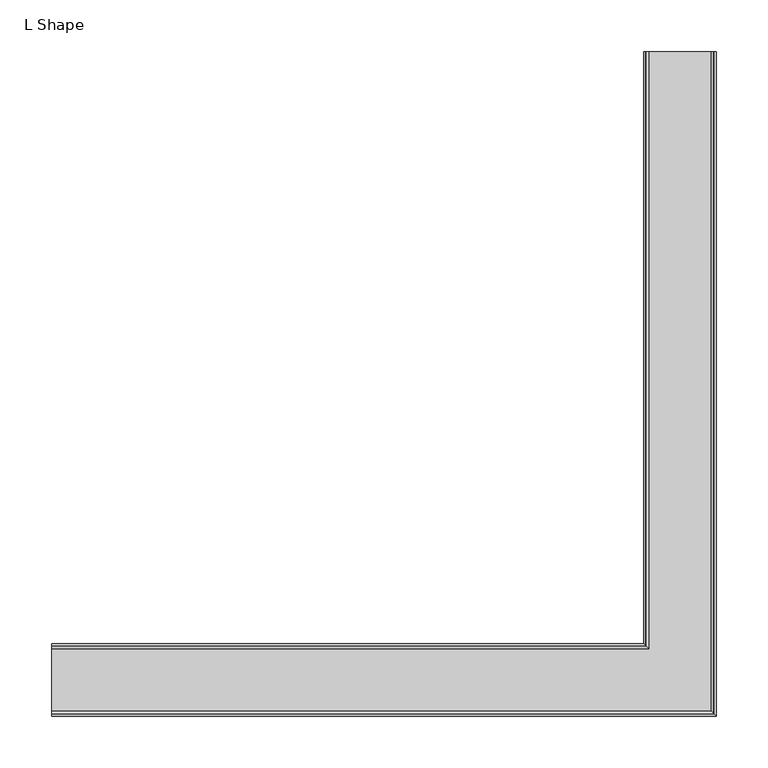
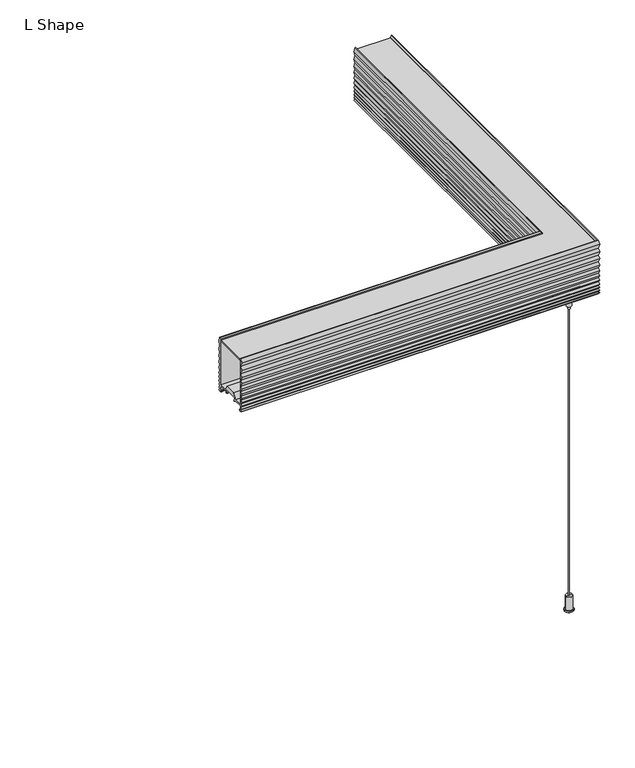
"""IFC4 building model written with IfcOpenShell, lengths in millimetres: light fixture geometry, Lighting-Pendant-Betacalco-Bellows-L_Shape : L Shape."""

from ifc_helpers import new_model, si_unit, point, frame, frame_2d, origin, place, context, project, spatial, polyline, circle_curve, ellipse_curve, trimmed, segment, composite_curve, outline, extrude, source, transform, mapped, element, save
from ifc_brep_helpers import plane_surface, cylinder_surface, advanced_brep


def l_shape_2e4bd5f2(model_context):
    return source(origin(), model_context, "Body", "SolidModel", [
        extrude(outline(polyline([(334.6958, -30.1625), (274.9042, -30.1625), (274.9042, 30.1625), (334.6958, 30.1625), (334.6958, -30.1625)])), frame((0.0, 0.0, 612.648), z_axis=(0.0, 0.0, 1.0), x_axis=(1.0, 0.0, 0.0)), (0.0, 0.0, 1.0), 1.524),
        advanced_brep(
        [(312.8, 0.0, 0.0), (312.8, 0.0, 2.05), (296.8, 0.0, 2.05), (296.8, 0.0, 0.0), (310.8, 0.0, 2.05), (298.8, 0.0, 2.05), (310.8, 0.0, 27.4), (298.8, 0.0, 27.4), (304.8, 0.0, 27.4), (304.8, 0.0, 0.0)],
        [
            (0, 1),
            (1, 2, circle_curve(frame((304.8, 0.0, 2.05), z_axis=(0.0, 0.0, -1.0), x_axis=(-1.0, 0.0, 0.0)), 8.0)),
            (2, 3),
            (3, 0, circle_curve(frame((304.8, 0.0, 0.0), z_axis=(0.0, 0.0, 1.0), x_axis=(-1.0, 0.0, 0.0)), 8.0)),
            (2, 1, circle_curve(frame((304.8, 0.0, 2.05), z_axis=(0.0, 0.0, -1.0), x_axis=(-1.0, 0.0, 0.0)), 8.0)),
            (0, 3, circle_curve(frame((304.8, 0.0, 0.0), z_axis=(0.0, 0.0, 1.0), x_axis=(-1.0, 0.0, 0.0)), 8.0)),
            (1, 4),
            (4, 5, circle_curve(frame((304.8, 0.0, 2.05), z_axis=(0.0, 0.0, -1.0), x_axis=(-1.0, 0.0, 0.0)), 6.0)),
            (5, 2),
            (5, 4, circle_curve(frame((304.8, 0.0, 2.05), z_axis=(0.0, 0.0, -1.0), x_axis=(-1.0, 0.0, 0.0)), 6.0)),
            (4, 6),
            (6, 7, circle_curve(frame((304.8, 0.0, 27.4), z_axis=(0.0, 0.0, -1.0), x_axis=(-1.0, 0.0, 0.0)), 6.0)),
            (7, 5),
            (7, 6, circle_curve(frame((304.8, 0.0, 27.4), z_axis=(0.0, 0.0, -1.0), x_axis=(-1.0, 0.0, 0.0)), 6.0)),
            (6, 8),
            (8, 7),
            (9, 0),
            (3, 9),
        ],
        [
            cylinder_surface(frame((304.8, 0.0, 2366.7150031), z_axis=(0.0, 0.0, -1.0), x_axis=(-1.0, 0.0, 0.0)), 8.0),
            plane_surface(frame((304.8, 0.0, 2.05), z_axis=(0.0, 0.0, 1.0), x_axis=(-1.0, 0.0, 0.0))),
            cylinder_surface(frame((304.8, 0.0, 2366.7150031), z_axis=(0.0, 0.0, -1.0), x_axis=(-1.0, 0.0, 0.0)), 6.0),
            plane_surface(frame((304.8, 0.0, 27.4), z_axis=(0.0, 0.0, 1.0), x_axis=(-1.0, 0.0, 0.0))),
            plane_surface(frame((304.8, 0.0, 0.0), z_axis=(0.0, 0.0, -1.0), x_axis=(-1.0, 0.0, 0.0))),
        ],
        [
            (0, [[1, 2, 3, 4]]),
            (0, [[-3, 5, -1, 6]]),
            (1, [[7, 8, 9, -2]]),
            (1, [[-9, 10, -7, -5]]),
            (2, [[11, 12, 13, -8]]),
            (2, [[-13, 14, -11, -10]]),
            (3, [[15, 16, -12]]),
            (3, [[-16, -15, -14]]),
            (4, [[17, -4, 18]]),
            (4, [[-18, -6, -17]]),
        ],
    ),
        advanced_brep(
        [(305.5937476, 0.0, 27.4), (305.5937476, 0.0, 572.93256), (304.0062524, 0.0, 572.93256), (304.0062524, 0.0, 27.4), (304.8, 0.0, 27.4), (304.8, 0.0, 572.93256)],
        [
            (0, 1),
            (1, 2, circle_curve(frame((304.8, 0.0, 572.93256), z_axis=(0.0, 0.0, -1.0), x_axis=(-1.0, 0.0, 0.0)), 0.7937476)),
            (2, 3),
            (3, 0, circle_curve(frame((304.8, 0.0, 27.4), z_axis=(0.0, 0.0, 1.0), x_axis=(-1.0, 0.0, 0.0)), 0.7937476)),
            (2, 1, circle_curve(frame((304.8, 0.0, 572.93256), z_axis=(0.0, 0.0, -1.0), x_axis=(-1.0, 0.0, 0.0)), 0.7937476)),
            (0, 3, circle_curve(frame((304.8, 0.0, 27.4), z_axis=(0.0, 0.0, 1.0), x_axis=(-1.0, 0.0, 0.0)), 0.7937476)),
            (4, 0),
            (3, 4),
            (1, 5),
            (5, 2),
        ],
        [
            cylinder_surface(frame((304.8, 0.0, 2366.7150031), z_axis=(0.0, 0.0, -1.0), x_axis=(-1.0, 0.0, 0.0)), 0.7937476),
            plane_surface(frame((304.8, 0.0, 27.4), z_axis=(0.0, 0.0, -1.0), x_axis=(-1.0, 0.0, 0.0))),
            plane_surface(frame((304.8, 0.0, 572.93256), z_axis=(0.0, 0.0, 1.0), x_axis=(-1.0, 0.0, 0.0))),
        ],
        [
            (0, [[1, 2, 3, 4]]),
            (0, [[-3, 5, -1, 6]]),
            (1, [[7, -4, 8]]),
            (1, [[-8, -6, -7]]),
            (2, [[9, 10, -2]]),
            (2, [[-10, -9, -5]]),
        ],
    ),
        advanced_brep(
        [(309.2704, 0.0, 578.64756), (309.2704, 0.0, 612.648), (300.3296, 0.0, 612.648), (300.3296, 0.0, 578.64756), (306.7304, 0.0, 578.64756), (302.8696, 0.0, 578.64756), (306.7304, 0.0, 572.93256), (302.8696, 0.0, 572.93256), (304.8, 0.0, 572.93256), (304.8, 0.0, 612.648)],
        [
            (0, 1),
            (1, 2, circle_curve(frame((304.8, 0.0, 612.648), z_axis=(0.0, 0.0, -1.0), x_axis=(-1.0, 0.0, 0.0)), 4.4704)),
            (2, 3),
            (3, 0, circle_curve(frame((304.8, 0.0, 578.64756), z_axis=(0.0, 0.0, 1.0), x_axis=(-1.0, 0.0, 0.0)), 4.4704)),
            (2, 1, circle_curve(frame((304.8, 0.0, 612.648), z_axis=(0.0, 0.0, -1.0), x_axis=(-1.0, 0.0, 0.0)), 4.4704)),
            (0, 3, circle_curve(frame((304.8, 0.0, 578.64756), z_axis=(0.0, 0.0, 1.0), x_axis=(-1.0, 0.0, 0.0)), 4.4704)),
            (4, 0),
            (3, 5),
            (5, 4, circle_curve(frame((304.8, 0.0, 578.64756), z_axis=(0.0, 0.0, 1.0), x_axis=(-1.0, 0.0, 0.0)), 1.9304)),
            (4, 5, circle_curve(frame((304.8, 0.0, 578.64756), z_axis=(0.0, 0.0, 1.0), x_axis=(-1.0, 0.0, 0.0)), 1.9304)),
            (6, 4),
            (5, 7),
            (7, 6, circle_curve(frame((304.8, 0.0, 572.93256), z_axis=(0.0, 0.0, 1.0), x_axis=(-1.0, 0.0, 0.0)), 1.9304)),
            (6, 7, circle_curve(frame((304.8, 0.0, 572.93256), z_axis=(0.0, 0.0, 1.0), x_axis=(-1.0, 0.0, 0.0)), 1.9304)),
            (8, 6),
            (7, 8),
            (1, 9),
            (9, 2),
        ],
        [
            cylinder_surface(frame((304.8, 0.0, 2366.7150031), z_axis=(0.0, 0.0, -1.0), x_axis=(-1.0, 0.0, 0.0)), 4.4704),
            plane_surface(frame((304.8, 0.0, 578.64756), z_axis=(0.0, 0.0, -1.0), x_axis=(-1.0, 0.0, 0.0))),
            cylinder_surface(frame((304.8, 0.0, 2366.7150031), z_axis=(0.0, 0.0, -1.0), x_axis=(-1.0, 0.0, 0.0)), 1.9304),
            plane_surface(frame((304.8, 0.0, 572.93256), z_axis=(0.0, 0.0, -1.0), x_axis=(-1.0, 0.0, 0.0))),
            plane_surface(frame((304.8, 0.0, 612.648), z_axis=(0.0, 0.0, 1.0), x_axis=(-1.0, 0.0, 0.0))),
        ],
        [
            (0, [[1, 2, 3, 4]]),
            (0, [[-3, 5, -1, 6]]),
            (1, [[7, -4, 8, 9]]),
            (1, [[-8, -6, -7, 10]]),
            (2, [[11, -9, 12, 13]]),
            (2, [[-12, -10, -11, 14]]),
            (3, [[15, -13, 16]]),
            (3, [[-16, -14, -15]]),
            (4, [[17, 18, -2]]),
            (4, [[-18, -17, -5]]),
        ],
    ),
        extrude(outline(composite_curve([segment(trimmed(circle_curve(frame_2d((617.6899758, 295.0365915)), 3.0000001), [point((616.3504727, 292.3522421))], [point((614.7956432, 294.2473898))], False, "CARTESIAN"), True, "CONTINUOUS"), segment(trimmed(circle_curve(frame_2d((653.4964752, 304.8)), 40.113738), [point((614.7956432, 294.2473898))], [point((614.7956432, 315.3526102))], False, "CARTESIAN"), True, "CONTINUOUS"), segment(trimmed(circle_curve(frame_2d((617.6899758, 314.5634085)), 3.0000001), [point((614.7956432, 315.3526102))], [point((616.3504727, 317.2477579))], False, "CARTESIAN"), True, "CONTINUOUS"), segment(polyline([(616.3504727, 317.2477579), (617.6039135, 317.8732308), (617.6039135, 291.7267692), (616.3504727, 292.3522421)]), True, "CONTINUOUS")], self_intersect=False)), frame((0.0, 34.29, 0.0), z_axis=(0.0, 1.0, 0.0), x_axis=(0.0, 0.0, 1.0)), (0.0, 0.0, 1.0), 541.02),
        extrude(outline(composite_curve([segment(polyline([(-12.4477579, 616.3504727), (-13.0732308, 617.6039135), (13.0732308, 617.6039135), (12.4477579, 616.3504727)]), True, "CONTINUOUS"), segment(trimmed(circle_curve(frame_2d((9.7634085, 617.6899758)), 3.0000001), [point((12.4477579, 616.3504727))], [point((10.5526102, 614.7956432))], False, "CARTESIAN"), True, "CONTINUOUS"), segment(trimmed(circle_curve(frame_2d((0.0, 653.4964752)), 40.113738), [point((10.5526102, 614.7956432))], [point((-10.5526102, 614.7956432))], False, "CARTESIAN"), True, "CONTINUOUS"), segment(trimmed(circle_curve(frame_2d((-9.7634085, 617.6899758)), 3.0000001), [point((-10.5526102, 614.7956432))], [point((-12.4477579, 616.3504727))], False, "CARTESIAN"), True, "CONTINUOUS")], self_intersect=False)), frame((-270.51, 0.0, 0.0), z_axis=(1.0, 0.0, 0.0), x_axis=(0.0, 1.0, 0.0)), (0.0, 0.0, 1.0), 541.02),
        advanced_brep(
        [(273.578, 609.6, 620.268), (273.578, 609.6, 611.759), (276.1074155, 609.6, 611.759), (274.1622, 609.6, 609.6), (271.5112057, 609.6, 609.6), (269.6378379, 609.6, 611.6283861), (271.419, 609.6, 613.664), (269.641, 609.6, 616.204), (271.419, 609.6, 618.744), (269.641, 609.6, 621.792), (271.419, 609.6, 624.84), (269.641, 609.6, 628.396), (271.419, 609.6, 631.952), (269.641, 609.6, 635.762), (271.419, 609.6, 639.572), (269.6696413, 609.6, 644.0703509), (271.3917998, 609.6, 648.6460566), (269.6644945, 609.6, 653.7288728), (271.3965785, 609.6, 658.8119386), (269.6606035, 609.6, 664.402389), (271.4002163, 609.6, 669.9929656), (269.6575947, 609.6, 676.091104), (271.4035969, 609.6, 682.1911894), (269.6533208, 609.6, 689.3067168), (271.4068918, 609.6, 696.4195673), (269.6525087, 609.6, 703.786321), (271.4185068, 609.6, 711.2), (272.2122568, 609.6, 711.2), (274.37175, 609.6, 708.8470342), (274.37175, 609.6, 707.3961196), (273.578, 609.6, 707.3961196), (273.578, 609.6, 622.427), (289.3193854, 609.6, 622.427), (294.1777745, 609.6, 632.1473325), (315.4222255, 609.6, 632.1473325), (320.2806146, 609.6, 622.427), (336.022, 609.6, 622.427), (336.022, 609.6, 707.3961196), (335.22825, 609.6, 707.3961196), (335.22825, 609.6, 708.8470342), (337.3877432, 609.6, 711.2), (338.1814932, 609.6, 711.2), (339.9474913, 609.6, 703.786321), (338.1931082, 609.6, 696.4195673), (339.9466792, 609.6, 689.3067168), (338.1964031, 609.6, 682.1911894), (339.9424053, 609.6, 676.091104), (338.1997837, 609.6, 669.9929656), (339.9393965, 609.6, 664.402389), (338.2034215, 609.6, 658.8119386), (339.9355055, 609.6, 653.7288728), (338.2082002, 609.6, 648.6460566), (339.9303587, 609.6, 644.0703509), (338.181, 609.6, 639.572), (339.959, 609.6, 635.762), (338.181, 609.6, 631.952), (339.959, 609.6, 628.396), (338.181, 609.6, 624.84), (339.959, 609.6, 621.792), (338.181, 609.6, 618.744), (339.959, 609.6, 616.204), (338.181, 609.6, 613.664), (339.9621621, 609.6, 611.6283861), (338.0887943, 609.6, 609.6), (335.4378, 609.6, 609.6), (333.4925845, 609.6, 611.759), (336.022, 609.6, 611.759), (336.022, 609.6, 620.268), (318.3129289, 609.6, 620.268), (317.5429679, 609.6, 618.214822), (315.8552644, 609.6, 618.8406239), (317.48601, 609.6, 623.1891701), (316.8641563, 609.6, 624.4333325), (292.7358437, 609.6, 624.4333325), (292.11399, 609.6, 623.1891701), (293.7447356, 609.6, 618.8406239), (292.0570321, 609.6, 618.214822), (291.2870711, 609.6, 620.268), (-304.8, 31.222, 620.268), (-304.8, 13.5129289, 620.268), (-304.8, 12.7429679, 618.214822), (-304.8, 11.0552644, 618.8406239), (-304.8, 12.68601, 623.1891701), (-304.8, 12.0641563, 624.4333325), (-304.8, -12.0641563, 624.4333325), (-304.8, -12.68601, 623.1891701), (-304.8, -11.0552644, 618.8406239), (-304.8, -12.7429679, 618.214822), (-304.8, -13.5129289, 620.268), (-304.8, -31.222, 620.268), (-304.8, -31.222, 611.759), (-304.8, -28.6925845, 611.759), (-304.8, -30.6378, 609.6), (-304.8, -33.2887943, 609.6), (-304.8, -35.1621621, 611.6283861), (-304.8, -33.381, 613.664), (-304.8, -35.159, 616.204), (-304.8, -33.381, 618.744), (-304.8, -35.159, 621.792), (-304.8, -33.381, 624.84), (-304.8, -35.159, 628.396), (-304.8, -33.381, 631.952), (-304.8, -35.159, 635.762), (-304.8, -33.381, 639.572), (-304.8, -35.1303587, 644.0703509), (-304.8, -33.4082002, 648.6460566), (-304.8, -35.1355055, 653.7288728), (-304.8, -33.4034215, 658.8119386), (-304.8, -35.1393965, 664.402389), (-304.8, -33.3997837, 669.9929656), (-304.8, -35.1424053, 676.091104), (-304.8, -33.3964031, 682.1911894), (-304.8, -35.1466792, 689.3067168), (-304.8, -33.3931082, 696.4195673), (-304.8, -35.1474913, 703.786321), (-304.8, -33.3814932, 711.2), (-304.8, -32.5877432, 711.2), (-304.8, -30.42825, 708.8470342), (-304.8, -30.42825, 707.3961196), (-304.8, -31.222, 707.3961196), (-304.8, -31.222, 622.427), (-304.8, -15.4806146, 622.427), (-304.8, -10.6222255, 632.1473325), (-304.8, 10.6222255, 632.1473325), (-304.8, 15.4806146, 622.427), (-304.8, 31.222, 622.427), (-304.8, 31.222, 707.3961196), (-304.8, 30.42825, 707.3961196), (-304.8, 30.42825, 708.8470342), (-304.8, 32.5877432, 711.2), (-304.8, 33.3814932, 711.2), (-304.8, 35.1474913, 703.786321), (-304.8, 33.3931082, 696.4195673), (-304.8, 35.1466792, 689.3067168), (-304.8, 33.3964031, 682.1911894), (-304.8, 35.1424053, 676.091104), (-304.8, 33.3997837, 669.9929656), (-304.8, 35.1393965, 664.402389), (-304.8, 33.4034215, 658.8119386), (-304.8, 35.1355055, 653.7288728), (-304.8, 33.4082002, 648.6460566), (-304.8, 35.1303587, 644.0703509), (-304.8, 33.381, 639.572), (-304.8, 35.159, 635.762), (-304.8, 33.381, 631.952), (-304.8, 35.159, 628.396), (-304.8, 33.381, 624.84), (-304.8, 35.159, 621.792), (-304.8, 33.381, 618.744), (-304.8, 35.159, 616.204), (-304.8, 33.381, 613.664), (-304.8, 35.1621621, 611.6283861), (-304.8, 33.2887943, 609.6), (-304.8, 30.6378, 609.6), (-304.8, 28.6925845, 611.759), (-304.8, 31.222, 611.759), (292.0570321, 12.7429679, 618.214822), (291.2870711, 13.5129289, 620.268), (293.7447356, 11.0552644, 618.8406239), (292.11399, 12.68601, 623.1891701), (292.7358437, 12.0641563, 624.4333325), (317.48601, -12.68601, 623.1891701), (316.8641563, -12.0641563, 624.4333325), (315.8552644, -11.0552644, 618.8406239), (317.5429679, -12.7429679, 618.214822), (318.3129289, -13.5129289, 620.268), (336.022, -31.222, 611.759), (336.022, -31.222, 620.268), (335.4378, -30.6378, 609.6), (333.4925845, -28.6925845, 611.759), (339.9621621, -35.1621621, 611.6283861), (338.0887943, -33.2887943, 609.6), (338.181, -33.381, 613.664), (339.959, -35.159, 616.204), (338.181, -33.381, 618.744), (339.959, -35.159, 621.792), (338.181, -33.381, 624.84), (339.959, -35.159, 628.396), (338.181, -33.381, 631.952), (339.959, -35.159, 635.762), (338.181, -33.381, 639.572), (339.9303587, -35.1303587, 644.0703509), (338.2082002, -33.4082002, 648.6460566), (339.9355055, -35.1355055, 653.7288728), (338.2034215, -33.4034215, 658.8119386), (339.9393965, -35.1393965, 664.402389), (338.1997837, -33.3997837, 669.9929656), (339.9424053, -35.1424053, 676.091104), (338.1964031, -33.3964031, 682.1911894), (339.9466792, -35.1466792, 689.3067168), (338.1931082, -33.3931082, 696.4195673), (339.9474913, -35.1474913, 703.786321), (338.1814932, -33.3814932, 711.2), (335.22825, -30.42825, 708.8470342), (337.3877432, -32.5877432, 711.2), (335.22825, -30.42825, 707.3961196), (336.022, -31.222, 622.427), (336.022, -31.222, 707.3961196), (315.4222255, -10.6222255, 632.1473325), (320.2806146, -15.4806146, 622.427), (289.3193854, 15.4806146, 622.427), (294.1777745, 10.6222255, 632.1473325), (273.578, 31.222, 707.3961196), (273.578, 31.222, 622.427), (274.37175, 30.42825, 708.8470342), (274.37175, 30.42825, 707.3961196), (272.2122568, 32.5877432, 711.2), (269.6525087, 35.1474913, 703.786321), (271.4185068, 33.3814932, 711.2), (271.4068918, 33.3931082, 696.4195673), (269.6533208, 35.1466792, 689.3067168), (271.4035969, 33.3964031, 682.1911894), (269.6575947, 35.1424053, 676.091104), (271.4002163, 33.3997837, 669.9929656), (269.6606035, 35.1393965, 664.402389), (271.3965785, 33.4034215, 658.8119386), (269.6644945, 35.1355055, 653.7288728), (271.3917998, 33.4082002, 648.6460566), (269.6696413, 35.1303587, 644.0703509), (271.419, 33.381, 639.572), (269.641, 35.159, 635.762), (271.419, 33.381, 631.952), (269.641, 35.159, 628.396), (271.419, 33.381, 624.84), (269.641, 35.159, 621.792), (271.419, 33.381, 618.744), (269.641, 35.159, 616.204), (271.419, 33.381, 613.664), (269.6378379, 35.1621621, 611.6283861), (271.5112057, 33.2887943, 609.6), (276.1074155, 28.6925845, 611.759), (274.1622, 30.6378, 609.6), (273.578, 31.222, 620.268), (273.578, 31.222, 611.759)],
        [
            (0, 1),
            (1, 2),
            (2, 3, circle_curve(frame((274.1622, 609.6, 611.5558), z_axis=(0.0, 1.0, 0.0), x_axis=(0.0, 0.0, -1.0)), 1.9558)),
            (3, 4),
            (4, 5),
            (5, 6),
            (6, 7),
            (7, 8),
            (8, 9),
            (9, 10),
            (10, 11),
            (11, 12),
            (12, 13),
            (13, 14),
            (14, 15),
            (15, 16),
            (16, 17),
            (17, 18),
            (18, 19),
            (19, 20),
            (20, 21),
            (21, 22),
            (22, 23),
            (23, 24),
            (24, 25),
            (25, 26),
            (26, 27),
            (27, 28),
            (28, 29),
            (29, 30),
            (30, 31),
            (31, 32),
            (32, 33),
            (33, 34),
            (34, 35),
            (35, 36),
            (36, 37),
            (37, 38),
            (38, 39),
            (39, 40),
            (40, 41),
            (41, 42),
            (42, 43),
            (43, 44),
            (44, 45),
            (45, 46),
            (46, 47),
            (47, 48),
            (48, 49),
            (49, 50),
            (50, 51),
            (51, 52),
            (52, 53),
            (53, 54),
            (54, 55),
            (55, 56),
            (56, 57),
            (57, 58),
            (58, 59),
            (59, 60),
            (60, 61),
            (61, 62),
            (62, 63),
            (63, 64),
            (64, 65, circle_curve(frame((335.4378, 609.6, 611.5558), z_axis=(0.0, 1.0, 0.0), x_axis=(0.0, 0.0, -1.0)), 1.9558)),
            (65, 66),
            (66, 67),
            (67, 68),
            (68, 69),
            (69, 70, circle_curve(frame((316.7002723, 609.6, 618.5308408), z_axis=(0.0, 1.0, 0.0), x_axis=(-0.34325550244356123, 0.0, -0.9392420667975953)), 0.9000021)),
            (70, 71),
            (71, 72),
            (72, 73),
            (73, 74),
            (74, 75),
            (75, 76, circle_curve(frame((292.8997277, 609.6, 618.5308408), z_axis=(0.0, 1.0, 0.0), x_axis=(0.34325550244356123, 0.0, -0.9392420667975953)), 0.9000021)),
            (76, 77),
            (77, 0),
            (78, 79),
            (79, 80),
            (80, 81, circle_curve(frame((-304.8, 11.9002723, 618.5308408), z_axis=(-1.0, 0.0, 0.0), x_axis=(0.0, -0.34325550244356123, -0.9392420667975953)), 0.9000021)),
            (81, 82),
            (82, 83),
            (83, 84),
            (84, 85),
            (85, 86),
            (86, 87, circle_curve(frame((-304.8, -11.9002723, 618.5308408), z_axis=(-1.0, 0.0, 0.0), x_axis=(0.0, 0.34325550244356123, -0.9392420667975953)), 0.9000021)),
            (87, 88),
            (88, 89),
            (89, 90),
            (90, 91),
            (91, 92, circle_curve(frame((-304.8, -30.6378, 611.5558), z_axis=(-1.0, 0.0, 0.0), x_axis=(0.0, 0.0, -1.0)), 1.9558)),
            (92, 93),
            (93, 94),
            (94, 95),
            (95, 96),
            (96, 97),
            (97, 98),
            (98, 99),
            (99, 100),
            (100, 101),
            (101, 102),
            (102, 103),
            (103, 104),
            (104, 105),
            (105, 106),
            (106, 107),
            (107, 108),
            (108, 109),
            (109, 110),
            (110, 111),
            (111, 112),
            (112, 113),
            (113, 114),
            (114, 115),
            (115, 116),
            (116, 117),
            (117, 118),
            (118, 119),
            (119, 120),
            (120, 121),
            (121, 122),
            (122, 123),
            (123, 124),
            (124, 125),
            (125, 126),
            (126, 127),
            (127, 128),
            (128, 129),
            (129, 130),
            (130, 131),
            (131, 132),
            (132, 133),
            (133, 134),
            (134, 135),
            (135, 136),
            (136, 137),
            (137, 138),
            (138, 139),
            (139, 140),
            (140, 141),
            (141, 142),
            (142, 143),
            (143, 144),
            (144, 145),
            (145, 146),
            (146, 147),
            (147, 148),
            (148, 149),
            (149, 150),
            (150, 151),
            (151, 152),
            (152, 153),
            (153, 154, circle_curve(frame((-304.8, 30.6378, 611.5558), z_axis=(-1.0, 0.0, 0.0), x_axis=(0.0, 0.0, -1.0)), 1.9558)),
            (154, 155),
            (155, 78),
            (156, 80),
            (79, 157),
            (157, 156),
            (158, 81),
            (156, 158, ellipse_curve(frame((292.8997277, 11.9002723, 618.5308408), z_axis=(-0.7071067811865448, -0.7071067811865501, 0.0), x_axis=(0.7071067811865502, -0.7071067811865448, 0.0)), 1.2727952, 0.9000021)),
            (159, 82),
            (158, 159),
            (160, 83),
            (159, 160),
            (161, 85),
            (84, 162),
            (162, 161),
            (163, 86),
            (161, 163),
            (164, 87),
            (163, 164, ellipse_curve(frame((316.7002723, -11.9002723, 618.5308408), z_axis=(-0.7071067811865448, -0.7071067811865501, 0.0), x_axis=(0.7071067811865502, -0.7071067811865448, 0.0)), 1.2727952, 0.9000021)),
            (165, 88),
            (164, 165),
            (166, 90),
            (89, 167),
            (167, 166),
            (168, 92),
            (91, 169),
            (169, 168, ellipse_curve(frame((335.4378, -30.6378, 611.5558), z_axis=(-0.7071067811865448, -0.7071067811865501, 0.0), x_axis=(0.7071067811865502, -0.7071067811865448, 0.0)), 2.7659189, 1.9558)),
            (170, 94),
            (93, 171),
            (171, 170),
            (172, 95),
            (170, 172),
            (173, 96),
            (172, 173),
            (174, 97),
            (173, 174),
            (175, 98),
            (174, 175),
            (176, 99),
            (175, 176),
            (177, 100),
            (176, 177),
            (178, 101),
            (177, 178),
            (179, 102),
            (178, 179),
            (180, 103),
            (179, 180),
            (181, 104),
            (180, 181),
            (182, 105),
            (181, 182),
            (183, 106),
            (182, 183),
            (184, 107),
            (183, 184),
            (185, 108),
            (184, 185),
            (186, 109),
            (185, 186),
            (187, 110),
            (186, 187),
            (188, 111),
            (187, 188),
            (189, 112),
            (188, 189),
            (190, 113),
            (189, 190),
            (191, 114),
            (190, 191),
            (192, 115),
            (191, 192),
            (193, 117),
            (116, 194),
            (194, 193),
            (195, 118),
            (193, 195),
            (196, 120),
            (119, 197),
            (197, 196),
            (198, 122),
            (121, 199),
            (199, 198),
            (200, 124),
            (123, 201),
            (201, 200),
            (202, 126),
            (125, 203),
            (203, 202),
            (204, 128),
            (127, 205),
            (205, 204),
            (206, 129),
            (204, 206),
            (207, 131),
            (130, 208),
            (208, 207),
            (209, 132),
            (207, 209),
            (210, 133),
            (209, 210),
            (211, 134),
            (210, 211),
            (212, 135),
            (211, 212),
            (213, 136),
            (212, 213),
            (214, 137),
            (213, 214),
            (215, 138),
            (214, 215),
            (216, 139),
            (215, 216),
            (217, 140),
            (216, 217),
            (218, 141),
            (217, 218),
            (219, 142),
            (218, 219),
            (220, 143),
            (219, 220),
            (221, 144),
            (220, 221),
            (222, 145),
            (221, 222),
            (223, 146),
            (222, 223),
            (224, 147),
            (223, 224),
            (225, 148),
            (224, 225),
            (226, 149),
            (225, 226),
            (227, 150),
            (226, 227),
            (228, 151),
            (227, 228),
            (229, 152),
            (228, 229),
            (230, 154),
            (153, 231),
            (231, 230, ellipse_curve(frame((274.1622, 30.6378, 611.5558), z_axis=(-0.7071067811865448, -0.7071067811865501, 0.0), x_axis=(0.7071067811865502, -0.7071067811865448, 0.0)), 2.7659189, 1.9558)),
            (232, 78),
            (155, 233),
            (233, 232),
            (77, 157),
            (232, 0),
            (76, 156),
            (75, 158),
            (74, 159),
            (73, 160),
            (72, 162),
            (71, 161),
            (70, 163),
            (69, 164),
            (68, 165),
            (67, 167),
            (66, 166),
            (65, 169),
            (64, 168),
            (63, 171),
            (62, 170),
            (61, 172),
            (60, 173),
            (59, 174),
            (58, 175),
            (57, 176),
            (56, 177),
            (55, 178),
            (54, 179),
            (53, 180),
            (52, 181),
            (51, 182),
            (50, 183),
            (49, 184),
            (48, 185),
            (47, 186),
            (46, 187),
            (45, 188),
            (44, 189),
            (43, 190),
            (42, 191),
            (41, 192),
            (40, 194),
            (39, 193),
            (38, 195),
            (37, 197),
            (36, 196),
            (35, 199),
            (34, 198),
            (33, 201),
            (32, 200),
            (31, 203),
            (30, 202),
            (29, 205),
            (28, 204),
            (27, 206),
            (26, 208),
            (25, 207),
            (24, 209),
            (23, 210),
            (22, 211),
            (21, 212),
            (20, 213),
            (19, 214),
            (18, 215),
            (17, 216),
            (16, 217),
            (15, 218),
            (14, 219),
            (13, 220),
            (12, 221),
            (11, 222),
            (10, 223),
            (9, 224),
            (8, 225),
            (7, 226),
            (6, 227),
            (5, 228),
            (4, 229),
            (3, 231),
            (2, 230),
            (1, 233),
        ],
        [
            plane_surface(frame((304.8, 609.6, 0.0), z_axis=(0.0, 1.0, 0.0), x_axis=(0.0, 0.0, 1.0))),
            plane_surface(frame((-304.8, 0.0, 0.0), z_axis=(-1.0, 0.0, 0.0), x_axis=(0.0, 0.0, 1.0))),
            plane_surface(frame((291.2870711, 13.5129289, 620.268), z_axis=(0.0, 0.9363262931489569, -0.3511311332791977), x_axis=(-1.0, 0.0, 0.0))),
            cylinder_surface(frame((304.8, 11.9002723, 618.5308408), z_axis=(1.0, 0.0, 0.0), x_axis=(0.0, -0.34325550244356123, -0.9392420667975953)), 0.9000021),
            plane_surface(frame((293.7447356, 11.0552644, 618.8406239), z_axis=(0.0, -0.9363262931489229, 0.35113113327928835), x_axis=(-1.0, 0.0, 0.0))),
            plane_surface(frame((292.11399, 12.68601, 623.1891701), z_axis=(0.0, -0.89449260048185, -0.44708275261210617), x_axis=(-1.0, 0.0, 0.0))),
            plane_surface(frame((316.8641563, -12.0641563, 624.4333325), z_axis=(0.0, 0.89449260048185, -0.44708275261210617), x_axis=(-1.0, 0.0, 0.0))),
            plane_surface(frame((317.48601, -12.68601, 623.1891701), z_axis=(0.0, 0.9363262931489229, 0.35113113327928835), x_axis=(-1.0, 0.0, 0.0))),
            cylinder_surface(frame((304.8, -11.9002723, 618.5308408), z_axis=(1.0, 0.0, 0.0), x_axis=(0.0, 0.34325550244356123, -0.9392420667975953)), 0.9000021),
            plane_surface(frame((317.5429679, -12.7429679, 618.214822), z_axis=(0.0, -0.9363262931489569, -0.3511311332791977), x_axis=(-1.0, 0.0, 0.0))),
            plane_surface(frame((336.022, -31.222, 620.268), z_axis=(0.0, 1.0, 0.0), x_axis=(-1.0, 0.0, 0.0))),
            cylinder_surface(frame((304.8, -30.6378, 611.5558), z_axis=(1.0, 0.0, 0.0), x_axis=(0.0, 0.0, -1.0)), 1.9558),
            plane_surface(frame((338.0887943, -33.2887943, 609.6), z_axis=(0.0, -0.7346208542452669, -0.6784778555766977), x_axis=(-1.0, 0.0, 0.0))),
            plane_surface(frame((339.9621621, -35.1621621, 611.6283861), z_axis=(0.0, -0.75257669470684, 0.6585046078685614), x_axis=(-1.0, 0.0, 0.0))),
            plane_surface(frame((338.181, -33.381, 613.664), z_axis=(0.0, -0.8192319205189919, -0.5734623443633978), x_axis=(-1.0, 0.0, 0.0))),
            plane_surface(frame((339.959, -35.159, 616.204), z_axis=(0.0, -0.8192319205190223, 0.5734623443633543), x_axis=(-1.0, 0.0, 0.0))),
            plane_surface(frame((338.181, -33.381, 618.744), z_axis=(0.0, -0.8637789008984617, -0.503871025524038), x_axis=(-1.0, 0.0, 0.0))),
            plane_surface(frame((339.959, -35.159, 621.792), z_axis=(0.0, -0.8637789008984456, 0.5038710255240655), x_axis=(-1.0, 0.0, 0.0))),
            plane_surface(frame((338.181, -33.381, 624.84), z_axis=(0.0, -0.8944271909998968, -0.4472135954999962), x_axis=(-1.0, 0.0, 0.0))),
            plane_surface(frame((339.959, -35.159, 628.396), z_axis=(0.0, -0.8944271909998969, 0.44721359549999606), x_axis=(-1.0, 0.0, 0.0))),
            plane_surface(frame((338.181, -33.381, 631.952), z_axis=(0.0, -0.9061831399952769, -0.4228854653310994), x_axis=(-1.0, 0.0, 0.0))),
            plane_surface(frame((339.959, -35.159, 635.762), z_axis=(0.0, -0.9061831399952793, 0.4228854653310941), x_axis=(-1.0, 0.0, 0.0))),
            plane_surface(frame((338.181, -33.381, 639.572), z_axis=(0.0, -0.9320046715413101, -0.362446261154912), x_axis=(-1.0, 0.0, 0.0))),
            plane_surface(frame((339.9303587, -35.1303587, 644.0703509), z_axis=(0.0, -0.9359069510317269, 0.35224732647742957), x_axis=(-1.0, 0.0, 0.0))),
            plane_surface(frame((338.2082002, -33.4082002, 648.6460566), z_axis=(0.0, -0.9468211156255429, -0.3217604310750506), x_axis=(-1.0, 0.0, 0.0))),
            plane_surface(frame((339.9355055, -35.1355055, 653.7288728), z_axis=(0.0, -0.9465545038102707, 0.3225439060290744), x_axis=(-1.0, 0.0, 0.0))),
            plane_surface(frame((338.2034215, -33.4034215, 658.8119386), z_axis=(0.0, -0.9550153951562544, -0.2965562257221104), x_axis=(-1.0, 0.0, 0.0))),
            plane_surface(frame((339.9393965, -35.1393965, 664.402389), z_axis=(0.0, -0.9548411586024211, 0.29711674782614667), x_axis=(-1.0, 0.0, 0.0))),
            plane_surface(frame((338.1997837, -33.3997837, 669.9929656), z_axis=(0.0, -0.9615116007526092, -0.2747643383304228), x_axis=(-1.0, 0.0, 0.0))),
            plane_surface(frame((339.9424053, -35.1424053, 676.091104), z_axis=(0.0, -0.9613939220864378, 0.27517581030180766), x_axis=(-1.0, 0.0, 0.0))),
            plane_surface(frame((338.1964031, -33.3964031, 682.1911894), z_axis=(0.0, -0.971054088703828, -0.23885970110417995), x_axis=(-1.0, 0.0, 0.0))),
            plane_surface(frame((339.9466792, -35.1466792, 689.3067168), z_axis=(0.0, -0.9709287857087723, 0.23936852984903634), x_axis=(-1.0, 0.0, 0.0))),
            plane_surface(frame((338.1931082, -33.3931082, 696.4195673), z_axis=(0.0, -0.9727944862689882, -0.23166978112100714), x_axis=(-1.0, 0.0, 0.0))),
            plane_surface(frame((339.9474913, -35.1474913, 703.786321), z_axis=(0.0, -0.9727814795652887, 0.23172439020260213), x_axis=(-1.0, 0.0, 0.0))),
            plane_surface(frame((337.3877432, -32.5877432, 711.2), z_axis=(0.0, 0.7367472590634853, 0.6761682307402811), x_axis=(-1.0, 0.0, 0.0))),
            plane_surface(frame((335.22825, -30.42825, 708.8470342), z_axis=(0.0, 1.0, 0.0), x_axis=(-1.0, 0.0, 0.0))),
            plane_surface(frame((336.022, -31.222, 707.3961196), z_axis=(0.0, 1.0, 0.0), x_axis=(-1.0, 0.0, 0.0))),
            plane_surface(frame((320.2806146, -15.4806146, 622.427), z_axis=(0.0, -0.8944926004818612, 0.4470827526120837), x_axis=(-1.0, 0.0, 0.0))),
            plane_surface(frame((294.1777745, 10.6222255, 632.1473325), z_axis=(0.0, 0.8944926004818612, 0.4470827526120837), x_axis=(-1.0, 0.0, 0.0))),
            plane_surface(frame((273.578, 31.222, 622.427), z_axis=(0.0, -1.0, 0.0), x_axis=(-1.0, 0.0, 0.0))),
            plane_surface(frame((274.37175, 30.42825, 707.3961196), z_axis=(0.0, -1.0, 0.0), x_axis=(-1.0, 0.0, 0.0))),
            plane_surface(frame((274.37175, 30.42825, 708.8470342), z_axis=(0.0, -0.7367472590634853, 0.6761682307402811), x_axis=(-1.0, 0.0, 0.0))),
            plane_surface(frame((271.4185068, 33.3814932, 711.2), z_axis=(0.0, 0.9727814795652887, 0.23172439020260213), x_axis=(-1.0, 0.0, 0.0))),
            plane_surface(frame((269.6525087, 35.1474913, 703.786321), z_axis=(0.0, 0.9727944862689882, -0.23166978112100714), x_axis=(-1.0, 0.0, 0.0))),
            plane_surface(frame((271.4068918, 33.3931082, 696.4195673), z_axis=(0.0, 0.9709287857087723, 0.23936852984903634), x_axis=(-1.0, 0.0, 0.0))),
            plane_surface(frame((269.6533208, 35.1466792, 689.3067168), z_axis=(0.0, 0.971054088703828, -0.23885970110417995), x_axis=(-1.0, 0.0, 0.0))),
            plane_surface(frame((271.4035969, 33.3964031, 682.1911894), z_axis=(0.0, 0.9613939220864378, 0.27517581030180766), x_axis=(-1.0, 0.0, 0.0))),
            plane_surface(frame((269.6575947, 35.1424053, 676.091104), z_axis=(0.0, 0.9615116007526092, -0.2747643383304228), x_axis=(-1.0, 0.0, 0.0))),
            plane_surface(frame((271.4002163, 33.3997837, 669.9929656), z_axis=(0.0, 0.9548411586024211, 0.29711674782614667), x_axis=(-1.0, 0.0, 0.0))),
            plane_surface(frame((269.6606035, 35.1393965, 664.402389), z_axis=(0.0, 0.9550153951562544, -0.2965562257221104), x_axis=(-1.0, 0.0, 0.0))),
            plane_surface(frame((271.3965785, 33.4034215, 658.8119386), z_axis=(0.0, 0.9465545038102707, 0.3225439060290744), x_axis=(-1.0, 0.0, 0.0))),
            plane_surface(frame((269.6644945, 35.1355055, 653.7288728), z_axis=(0.0, 0.9468211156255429, -0.3217604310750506), x_axis=(-1.0, 0.0, 0.0))),
            plane_surface(frame((271.3917998, 33.4082002, 648.6460566), z_axis=(0.0, 0.9359069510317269, 0.35224732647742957), x_axis=(-1.0, 0.0, 0.0))),
            plane_surface(frame((269.6696413, 35.1303587, 644.0703509), z_axis=(0.0, 0.9320046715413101, -0.362446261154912), x_axis=(-1.0, 0.0, 0.0))),
            plane_surface(frame((271.419, 33.381, 639.572), z_axis=(0.0, 0.9061831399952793, 0.4228854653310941), x_axis=(-1.0, 0.0, 0.0))),
            plane_surface(frame((269.641, 35.159, 635.762), z_axis=(0.0, 0.9061831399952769, -0.4228854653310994), x_axis=(-1.0, 0.0, 0.0))),
            plane_surface(frame((271.419, 33.381, 631.952), z_axis=(0.0, 0.8944271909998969, 0.44721359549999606), x_axis=(-1.0, 0.0, 0.0))),
            plane_surface(frame((269.641, 35.159, 628.396), z_axis=(0.0, 0.8944271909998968, -0.4472135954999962), x_axis=(-1.0, 0.0, 0.0))),
            plane_surface(frame((271.419, 33.381, 624.84), z_axis=(0.0, 0.8637789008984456, 0.5038710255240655), x_axis=(-1.0, 0.0, 0.0))),
            plane_surface(frame((269.641, 35.159, 621.792), z_axis=(0.0, 0.8637789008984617, -0.503871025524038), x_axis=(-1.0, 0.0, 0.0))),
            plane_surface(frame((271.419, 33.381, 618.744), z_axis=(0.0, 0.8192319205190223, 0.5734623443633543), x_axis=(-1.0, 0.0, 0.0))),
            plane_surface(frame((269.641, 35.159, 616.204), z_axis=(0.0, 0.8192319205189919, -0.5734623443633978), x_axis=(-1.0, 0.0, 0.0))),
            plane_surface(frame((271.419, 33.381, 613.664), z_axis=(0.0, 0.75257669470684, 0.6585046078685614), x_axis=(-1.0, 0.0, 0.0))),
            plane_surface(frame((269.6378379, 35.1621621, 611.6283861), z_axis=(0.0, 0.7346208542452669, -0.6784778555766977), x_axis=(-1.0, 0.0, 0.0))),
            cylinder_surface(frame((304.8, 30.6378, 611.5558), z_axis=(1.0, 0.0, 0.0), x_axis=(0.0, 0.0, -1.0)), 1.9558),
            plane_surface(frame((273.578, 31.222, 611.759), z_axis=(0.0, -1.0, 0.0), x_axis=(-1.0, 0.0, 0.0))),
            plane_surface(frame((273.578, 609.6, 620.268), z_axis=(0.0, 0.0, -1.0), x_axis=(0.0, -1.0, 0.0))),
            plane_surface(frame((291.2870711, 609.6, 620.268), z_axis=(-0.9363262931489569, 0.0, -0.3511311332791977), x_axis=(0.0, -1.0, 0.0))),
            cylinder_surface(frame((292.8997277, 609.6, 618.5308408), z_axis=(0.0, 1.0, 0.0), x_axis=(0.34325550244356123, 0.0, -0.9392420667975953)), 0.9000021),
            plane_surface(frame((293.7447356, 609.6, 618.8406239), z_axis=(0.9363262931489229, 0.0, 0.35113113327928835), x_axis=(0.0, -1.0, 0.0))),
            plane_surface(frame((292.11399, 609.6, 623.1891701), z_axis=(0.89449260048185, 0.0, -0.44708275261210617), x_axis=(0.0, -1.0, 0.0))),
            plane_surface(frame((292.7358437, 609.6, 624.4333325), z_axis=(0.0, 0.0, -1.0), x_axis=(0.0, -1.0, 0.0))),
            plane_surface(frame((316.8641563, 609.6, 624.4333325), z_axis=(-0.89449260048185, 0.0, -0.44708275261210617), x_axis=(0.0, -1.0, 0.0))),
            plane_surface(frame((317.48601, 609.6, 623.1891701), z_axis=(-0.9363262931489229, 0.0, 0.35113113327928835), x_axis=(0.0, -1.0, 0.0))),
            cylinder_surface(frame((316.7002723, 609.6, 618.5308408), z_axis=(0.0, 1.0, 0.0), x_axis=(-0.34325550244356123, 0.0, -0.9392420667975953)), 0.9000021),
            plane_surface(frame((317.5429679, 609.6, 618.214822), z_axis=(0.9363262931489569, 0.0, -0.3511311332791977), x_axis=(0.0, -1.0, 0.0))),
            plane_surface(frame((318.3129289, 609.6, 620.268), z_axis=(0.0, 0.0, -1.0), x_axis=(0.0, -1.0, 0.0))),
            plane_surface(frame((336.022, 609.6, 620.268), z_axis=(-1.0, 0.0, 0.0), x_axis=(0.0, -1.0, 0.0))),
            plane_surface(frame((336.022, 609.6, 611.759), z_axis=(0.0, 0.0, 1.0), x_axis=(0.0, -1.0, 0.0))),
            cylinder_surface(frame((335.4378, 609.6, 611.5558), z_axis=(0.0, 1.0, 0.0), x_axis=(0.0, 0.0, -1.0)), 1.9558),
            plane_surface(frame((335.4378, 609.6, 609.6), z_axis=(0.0, 0.0, -1.0), x_axis=(0.0, -1.0, 0.0))),
            plane_surface(frame((338.0887943, 609.6, 609.6), z_axis=(0.7346208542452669, 0.0, -0.6784778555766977), x_axis=(0.0, -1.0, 0.0))),
            plane_surface(frame((339.9621621, 609.6, 611.6283861), z_axis=(0.75257669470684, 0.0, 0.6585046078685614), x_axis=(0.0, -1.0, 0.0))),
            plane_surface(frame((338.181, 609.6, 613.664), z_axis=(0.8192319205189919, 0.0, -0.5734623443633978), x_axis=(0.0, -1.0, 0.0))),
            plane_surface(frame((339.959, 609.6, 616.204), z_axis=(0.8192319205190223, 0.0, 0.5734623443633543), x_axis=(0.0, -1.0, 0.0))),
            plane_surface(frame((338.181, 609.6, 618.744), z_axis=(0.8637789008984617, 0.0, -0.503871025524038), x_axis=(0.0, -1.0, 0.0))),
            plane_surface(frame((339.959, 609.6, 621.792), z_axis=(0.8637789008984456, 0.0, 0.5038710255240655), x_axis=(0.0, -1.0, 0.0))),
            plane_surface(frame((338.181, 609.6, 624.84), z_axis=(0.8944271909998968, 0.0, -0.4472135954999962), x_axis=(0.0, -1.0, 0.0))),
            plane_surface(frame((339.959, 609.6, 628.396), z_axis=(0.8944271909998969, 0.0, 0.44721359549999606), x_axis=(0.0, -1.0, 0.0))),
            plane_surface(frame((338.181, 609.6, 631.952), z_axis=(0.9061831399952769, 0.0, -0.4228854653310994), x_axis=(0.0, -1.0, 0.0))),
            plane_surface(frame((339.959, 609.6, 635.762), z_axis=(0.9061831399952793, 0.0, 0.4228854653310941), x_axis=(0.0, -1.0, 0.0))),
            plane_surface(frame((338.181, 609.6, 639.572), z_axis=(0.9320046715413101, 0.0, -0.362446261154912), x_axis=(0.0, -1.0, 0.0))),
            plane_surface(frame((339.9303587, 609.6, 644.0703509), z_axis=(0.9359069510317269, 0.0, 0.35224732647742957), x_axis=(0.0, -1.0, 0.0))),
            plane_surface(frame((338.2082002, 609.6, 648.6460566), z_axis=(0.9468211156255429, 0.0, -0.3217604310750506), x_axis=(0.0, -1.0, 0.0))),
            plane_surface(frame((339.9355055, 609.6, 653.7288728), z_axis=(0.9465545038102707, 0.0, 0.3225439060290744), x_axis=(0.0, -1.0, 0.0))),
            plane_surface(frame((338.2034215, 609.6, 658.8119386), z_axis=(0.9550153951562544, 0.0, -0.2965562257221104), x_axis=(0.0, -1.0, 0.0))),
            plane_surface(frame((339.9393965, 609.6, 664.402389), z_axis=(0.9548411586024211, 0.0, 0.29711674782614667), x_axis=(0.0, -1.0, 0.0))),
            plane_surface(frame((338.1997837, 609.6, 669.9929656), z_axis=(0.9615116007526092, 0.0, -0.2747643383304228), x_axis=(0.0, -1.0, 0.0))),
            plane_surface(frame((339.9424053, 609.6, 676.091104), z_axis=(0.9613939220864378, 0.0, 0.27517581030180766), x_axis=(0.0, -1.0, 0.0))),
            plane_surface(frame((338.1964031, 609.6, 682.1911894), z_axis=(0.971054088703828, 0.0, -0.23885970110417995), x_axis=(0.0, -1.0, 0.0))),
            plane_surface(frame((339.9466792, 609.6, 689.3067168), z_axis=(0.9709287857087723, 0.0, 0.23936852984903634), x_axis=(0.0, -1.0, 0.0))),
            plane_surface(frame((338.1931082, 609.6, 696.4195673), z_axis=(0.9727944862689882, 0.0, -0.23166978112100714), x_axis=(0.0, -1.0, 0.0))),
            plane_surface(frame((339.9474913, 609.6, 703.786321), z_axis=(0.9727814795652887, 0.0, 0.23172439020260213), x_axis=(0.0, -1.0, 0.0))),
            plane_surface(frame((338.1814932, 609.6, 711.2), z_axis=(0.0, 0.0, 1.0), x_axis=(0.0, -1.0, 0.0))),
            plane_surface(frame((337.3877432, 609.6, 711.2), z_axis=(-0.7367472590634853, 0.0, 0.6761682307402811), x_axis=(0.0, -1.0, 0.0))),
            plane_surface(frame((335.22825, 609.6, 708.8470342), z_axis=(-1.0, 0.0, 0.0), x_axis=(0.0, -1.0, 0.0))),
            plane_surface(frame((335.22825, 609.6, 707.3961196), z_axis=(0.0, 0.0, -1.0), x_axis=(0.0, -1.0, 0.0))),
            plane_surface(frame((336.022, 609.6, 707.3961196), z_axis=(-1.0, 0.0, 0.0), x_axis=(0.0, -1.0, 0.0))),
            plane_surface(frame((336.022, 609.6, 622.427), z_axis=(0.0, 0.0, 1.0), x_axis=(0.0, -1.0, 0.0))),
            plane_surface(frame((320.2806146, 609.6, 622.427), z_axis=(0.8944926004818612, 0.0, 0.4470827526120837), x_axis=(0.0, -1.0, 0.0))),
            plane_surface(frame((315.4222255, 609.6, 632.1473325), z_axis=(0.0, 0.0, 1.0), x_axis=(0.0, -1.0, 0.0))),
            plane_surface(frame((294.1777745, 609.6, 632.1473325), z_axis=(-0.8944926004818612, 0.0, 0.4470827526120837), x_axis=(0.0, -1.0, 0.0))),
            plane_surface(frame((289.3193854, 609.6, 622.427), z_axis=(0.0, 0.0, 1.0), x_axis=(0.0, -1.0, 0.0))),
            plane_surface(frame((273.578, 609.6, 622.427), z_axis=(1.0, 0.0, 0.0), x_axis=(0.0, -1.0, 0.0))),
            plane_surface(frame((273.578, 609.6, 707.3961196), z_axis=(0.0, 0.0, -1.0), x_axis=(0.0, -1.0, 0.0))),
            plane_surface(frame((274.37175, 609.6, 707.3961196), z_axis=(1.0, 0.0, 0.0), x_axis=(0.0, -1.0, 0.0))),
            plane_surface(frame((274.37175, 609.6, 708.8470342), z_axis=(0.7367472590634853, 0.0, 0.6761682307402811), x_axis=(0.0, -1.0, 0.0))),
            plane_surface(frame((272.2122568, 609.6, 711.2), z_axis=(0.0, 0.0, 1.0), x_axis=(0.0, -1.0, 0.0))),
            plane_surface(frame((271.4185068, 609.6, 711.2), z_axis=(-0.9727814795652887, 0.0, 0.23172439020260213), x_axis=(0.0, -1.0, 0.0))),
            plane_surface(frame((269.6525087, 609.6, 703.786321), z_axis=(-0.9727944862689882, 0.0, -0.23166978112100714), x_axis=(0.0, -1.0, 0.0))),
            plane_surface(frame((271.4068918, 609.6, 696.4195673), z_axis=(-0.9709287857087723, 0.0, 0.23936852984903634), x_axis=(0.0, -1.0, 0.0))),
            plane_surface(frame((269.6533208, 609.6, 689.3067168), z_axis=(-0.971054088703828, 0.0, -0.23885970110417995), x_axis=(0.0, -1.0, 0.0))),
            plane_surface(frame((271.4035969, 609.6, 682.1911894), z_axis=(-0.9613939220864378, 0.0, 0.27517581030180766), x_axis=(0.0, -1.0, 0.0))),
            plane_surface(frame((269.6575947, 609.6, 676.091104), z_axis=(-0.9615116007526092, 0.0, -0.2747643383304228), x_axis=(0.0, -1.0, 0.0))),
            plane_surface(frame((271.4002163, 609.6, 669.9929656), z_axis=(-0.9548411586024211, 0.0, 0.29711674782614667), x_axis=(0.0, -1.0, 0.0))),
            plane_surface(frame((269.6606035, 609.6, 664.402389), z_axis=(-0.9550153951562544, 0.0, -0.2965562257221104), x_axis=(0.0, -1.0, 0.0))),
            plane_surface(frame((271.3965785, 609.6, 658.8119386), z_axis=(-0.9465545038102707, 0.0, 0.3225439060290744), x_axis=(0.0, -1.0, 0.0))),
            plane_surface(frame((269.6644945, 609.6, 653.7288728), z_axis=(-0.9468211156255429, 0.0, -0.3217604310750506), x_axis=(0.0, -1.0, 0.0))),
            plane_surface(frame((271.3917998, 609.6, 648.6460566), z_axis=(-0.9359069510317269, 0.0, 0.35224732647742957), x_axis=(0.0, -1.0, 0.0))),
            plane_surface(frame((269.6696413, 609.6, 644.0703509), z_axis=(-0.9320046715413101, 0.0, -0.362446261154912), x_axis=(0.0, -1.0, 0.0))),
            plane_surface(frame((271.419, 609.6, 639.572), z_axis=(-0.9061831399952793, 0.0, 0.4228854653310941), x_axis=(0.0, -1.0, 0.0))),
            plane_surface(frame((269.641, 609.6, 635.762), z_axis=(-0.9061831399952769, 0.0, -0.4228854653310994), x_axis=(0.0, -1.0, 0.0))),
            plane_surface(frame((271.419, 609.6, 631.952), z_axis=(-0.8944271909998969, 0.0, 0.44721359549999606), x_axis=(0.0, -1.0, 0.0))),
            plane_surface(frame((269.641, 609.6, 628.396), z_axis=(-0.8944271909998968, 0.0, -0.4472135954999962), x_axis=(0.0, -1.0, 0.0))),
            plane_surface(frame((271.419, 609.6, 624.84), z_axis=(-0.8637789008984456, 0.0, 0.5038710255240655), x_axis=(0.0, -1.0, 0.0))),
            plane_surface(frame((269.641, 609.6, 621.792), z_axis=(-0.8637789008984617, 0.0, -0.503871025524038), x_axis=(0.0, -1.0, 0.0))),
            plane_surface(frame((271.419, 609.6, 618.744), z_axis=(-0.8192319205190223, 0.0, 0.5734623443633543), x_axis=(0.0, -1.0, 0.0))),
            plane_surface(frame((269.641, 609.6, 616.204), z_axis=(-0.8192319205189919, 0.0, -0.5734623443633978), x_axis=(0.0, -1.0, 0.0))),
            plane_surface(frame((271.419, 609.6, 613.664), z_axis=(-0.75257669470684, 0.0, 0.6585046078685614), x_axis=(0.0, -1.0, 0.0))),
            plane_surface(frame((269.6378379, 609.6, 611.6283861), z_axis=(-0.7346208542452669, 0.0, -0.6784778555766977), x_axis=(0.0, -1.0, 0.0))),
            plane_surface(frame((271.5112057, 609.6, 609.6), z_axis=(0.0, 0.0, -1.0), x_axis=(0.0, -1.0, 0.0))),
            cylinder_surface(frame((274.1622, 609.6, 611.5558), z_axis=(0.0, 1.0, 0.0), x_axis=(0.0, 0.0, -1.0)), 1.9558),
            plane_surface(frame((276.1074155, 609.6, 611.759), z_axis=(0.0, 0.0, 1.0), x_axis=(0.0, -1.0, 0.0))),
            plane_surface(frame((273.578, 609.6, 611.759), z_axis=(1.0, 0.0, 0.0), x_axis=(0.0, -1.0, 0.0))),
        ],
        [
            (0, [[1, 2, 3, 4, 5, 6, 7, 8, 9, 10, 11, 12, 13, 14, 15, 16, 17, 18, 19, 20, 21, 22, 23, 24, 25, 26, 27, 28, 29, 30, 31, 32, 33, 34, 35, 36, 37, 38, 39, 40, 41, 42, 43, 44, 45, 46, 47, 48, 49, 50, 51, 52, 53, 54, 55, 56, 57, 58, 59, 60, 61, 62, 63, 64, 65, 66, 67, 68, 69, 70, 71, 72, 73, 74, 75, 76, 77, 78]]),
            (1, [[79, 80, 81, 82, 83, 84, 85, 86, 87, 88, 89, 90, 91, 92, 93, 94, 95, 96, 97, 98, 99, 100, 101, 102, 103, 104, 105, 106, 107, 108, 109, 110, 111, 112, 113, 114, 115, 116, 117, 118, 119, 120, 121, 122, 123, 124, 125, 126, 127, 128, 129, 130, 131, 132, 133, 134, 135, 136, 137, 138, 139, 140, 141, 142, 143, 144, 145, 146, 147, 148, 149, 150, 151, 152, 153, 154, 155, 156]]),
            (2, [[157, -80, 158, 159]]),
            (3, [[160, -81, -157, 161]]),
            (4, [[162, -82, -160, 163]]),
            (5, [[164, -83, -162, 165]]),
            (6, [[166, -85, 167, 168]]),
            (7, [[169, -86, -166, 170]]),
            (8, [[171, -87, -169, 172]]),
            (9, [[173, -88, -171, 174]]),
            (10, [[175, -90, 176, 177]]),
            (11, [[178, -92, 179, 180]]),
            (12, [[181, -94, 182, 183]]),
            (13, [[184, -95, -181, 185]]),
            (14, [[186, -96, -184, 187]]),
            (15, [[188, -97, -186, 189]]),
            (16, [[190, -98, -188, 191]]),
            (17, [[192, -99, -190, 193]]),
            (18, [[194, -100, -192, 195]]),
            (19, [[196, -101, -194, 197]]),
            (20, [[198, -102, -196, 199]]),
            (21, [[200, -103, -198, 201]]),
            (22, [[202, -104, -200, 203]]),
            (23, [[204, -105, -202, 205]]),
            (24, [[206, -106, -204, 207]]),
            (25, [[208, -107, -206, 209]]),
            (26, [[210, -108, -208, 211]]),
            (27, [[212, -109, -210, 213]]),
            (28, [[214, -110, -212, 215]]),
            (29, [[216, -111, -214, 217]]),
            (30, [[218, -112, -216, 219]]),
            (31, [[220, -113, -218, 221]]),
            (32, [[222, -114, -220, 223]]),
            (33, [[224, -115, -222, 225]]),
            (34, [[226, -117, 227, 228]]),
            (35, [[229, -118, -226, 230]]),
            (36, [[231, -120, 232, 233]]),
            (37, [[234, -122, 235, 236]]),
            (38, [[237, -124, 238, 239]]),
            (39, [[240, -126, 241, 242]]),
            (40, [[243, -128, 244, 245]]),
            (41, [[246, -129, -243, 247]]),
            (42, [[248, -131, 249, 250]]),
            (43, [[251, -132, -248, 252]]),
            (44, [[253, -133, -251, 254]]),
            (45, [[255, -134, -253, 256]]),
            (46, [[257, -135, -255, 258]]),
            (47, [[259, -136, -257, 260]]),
            (48, [[261, -137, -259, 262]]),
            (49, [[263, -138, -261, 264]]),
            (50, [[265, -139, -263, 266]]),
            (51, [[267, -140, -265, 268]]),
            (52, [[269, -141, -267, 270]]),
            (53, [[271, -142, -269, 272]]),
            (54, [[273, -143, -271, 274]]),
            (55, [[275, -144, -273, 276]]),
            (56, [[277, -145, -275, 278]]),
            (57, [[279, -146, -277, 280]]),
            (58, [[281, -147, -279, 282]]),
            (59, [[283, -148, -281, 284]]),
            (60, [[285, -149, -283, 286]]),
            (61, [[287, -150, -285, 288]]),
            (62, [[289, -151, -287, 290]]),
            (63, [[291, -152, -289, 292]]),
            (64, [[293, -154, 294, 295]]),
            (65, [[296, -156, 297, 298]]),
            (66, [[299, -158, -79, -296, 300, -78]]),
            (67, [[301, -159, -299, -77]]),
            (68, [[302, -161, -301, -76]]),
            (69, [[303, -163, -302, -75]]),
            (70, [[304, -165, -303, -74]]),
            (71, [[305, -167, -84, -164, -304, -73]]),
            (72, [[306, -168, -305, -72]]),
            (73, [[307, -170, -306, -71]]),
            (74, [[308, -172, -307, -70]]),
            (75, [[309, -174, -308, -69]]),
            (76, [[310, -176, -89, -173, -309, -68]]),
            (77, [[311, -177, -310, -67]]),
            (78, [[312, -179, -91, -175, -311, -66]]),
            (79, [[313, -180, -312, -65]]),
            (80, [[314, -182, -93, -178, -313, -64]]),
            (81, [[315, -183, -314, -63]]),
            (82, [[316, -185, -315, -62]]),
            (83, [[317, -187, -316, -61]]),
            (84, [[318, -189, -317, -60]]),
            (85, [[319, -191, -318, -59]]),
            (86, [[320, -193, -319, -58]]),
            (87, [[321, -195, -320, -57]]),
            (88, [[322, -197, -321, -56]]),
            (89, [[323, -199, -322, -55]]),
            (90, [[324, -201, -323, -54]]),
            (91, [[325, -203, -324, -53]]),
            (92, [[326, -205, -325, -52]]),
            (93, [[327, -207, -326, -51]]),
            (94, [[328, -209, -327, -50]]),
            (95, [[329, -211, -328, -49]]),
            (96, [[330, -213, -329, -48]]),
            (97, [[331, -215, -330, -47]]),
            (98, [[332, -217, -331, -46]]),
            (99, [[333, -219, -332, -45]]),
            (100, [[334, -221, -333, -44]]),
            (101, [[335, -223, -334, -43]]),
            (102, [[336, -225, -335, -42]]),
            (103, [[337, -227, -116, -224, -336, -41]]),
            (104, [[338, -228, -337, -40]]),
            (105, [[339, -230, -338, -39]]),
            (106, [[340, -232, -119, -229, -339, -38]]),
            (107, [[341, -233, -340, -37]]),
            (108, [[342, -235, -121, -231, -341, -36]]),
            (109, [[343, -236, -342, -35]]),
            (110, [[344, -238, -123, -234, -343, -34]]),
            (111, [[345, -239, -344, -33]]),
            (112, [[346, -241, -125, -237, -345, -32]]),
            (113, [[347, -242, -346, -31]]),
            (114, [[348, -244, -127, -240, -347, -30]]),
            (115, [[349, -245, -348, -29]]),
            (116, [[350, -247, -349, -28]]),
            (117, [[351, -249, -130, -246, -350, -27]]),
            (118, [[352, -250, -351, -26]]),
            (119, [[353, -252, -352, -25]]),
            (120, [[354, -254, -353, -24]]),
            (121, [[355, -256, -354, -23]]),
            (122, [[356, -258, -355, -22]]),
            (123, [[357, -260, -356, -21]]),
            (124, [[358, -262, -357, -20]]),
            (125, [[359, -264, -358, -19]]),
            (126, [[360, -266, -359, -18]]),
            (127, [[361, -268, -360, -17]]),
            (128, [[362, -270, -361, -16]]),
            (129, [[363, -272, -362, -15]]),
            (130, [[364, -274, -363, -14]]),
            (131, [[365, -276, -364, -13]]),
            (132, [[366, -278, -365, -12]]),
            (133, [[367, -280, -366, -11]]),
            (134, [[368, -282, -367, -10]]),
            (135, [[369, -284, -368, -9]]),
            (136, [[370, -286, -369, -8]]),
            (137, [[371, -288, -370, -7]]),
            (138, [[372, -290, -371, -6]]),
            (139, [[373, -292, -372, -5]]),
            (140, [[374, -294, -153, -291, -373, -4]]),
            (141, [[375, -295, -374, -3]]),
            (142, [[376, -297, -155, -293, -375, -2]]),
            (143, [[-300, -298, -376, -1]]),
        ],
    ),
        extrude(outline(polyline([(336.022, 609.6), (336.022, -31.222), (-304.8, -31.222), (-304.8, 31.222), (273.578, 31.222), (273.578, 609.6), (336.022, 609.6)])), frame((0.0, 0.0, 705.9991196), z_axis=(0.0, 0.0, 1.0), x_axis=(1.0, 0.0, 0.0)), (0.0, 0.0, 1.0), 1.397),
    ])


if __name__ == "__main__":
    model = new_model("IFC4")
    model_context = context("Model", 3, world=origin())
    ifc_project = project(units=[si_unit("LENGTHUNIT", "METRE", prefix="MILLI")], contexts=[model_context])
    site = spatial("IfcSite", under=ifc_project)
    building = spatial("IfcBuilding", under=site)
    placement = place(None, origin())
    l_shape_shape = l_shape_2e4bd5f2(model_context)
    element("IfcLightFixture", 1, ObjectType="Lighting-Pendant-Betacalco-Bellows-L_Shape : L Shape", at=placement, inside=building, context=model_context, shape_type="MappedRepresentation", body=[
        mapped(l_shape_shape, transform((0.0, 0.0, 0.0), x_axis=(1.0, 0.0, 0.0), y_axis=(0.0, 1.0, 0.0), z_axis=(0.0, 0.0, 1.0))),
    ])
    save(model, "model.ifc")
